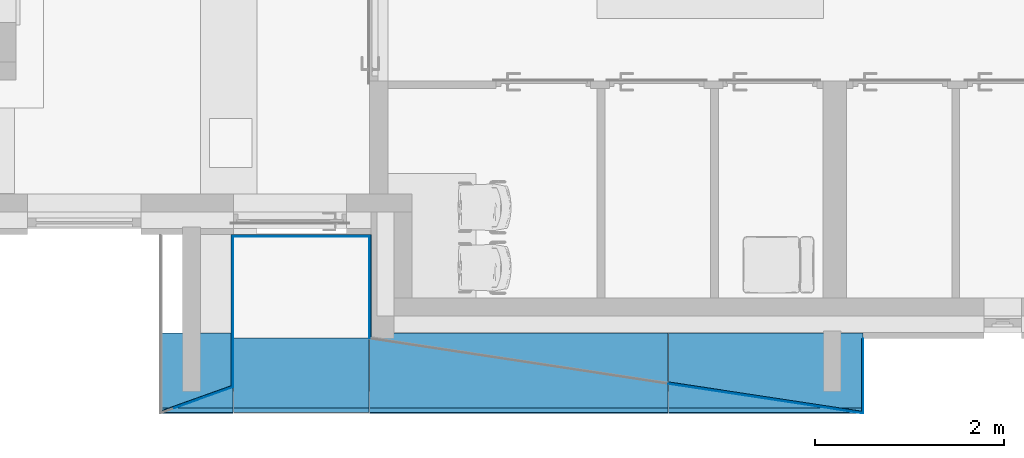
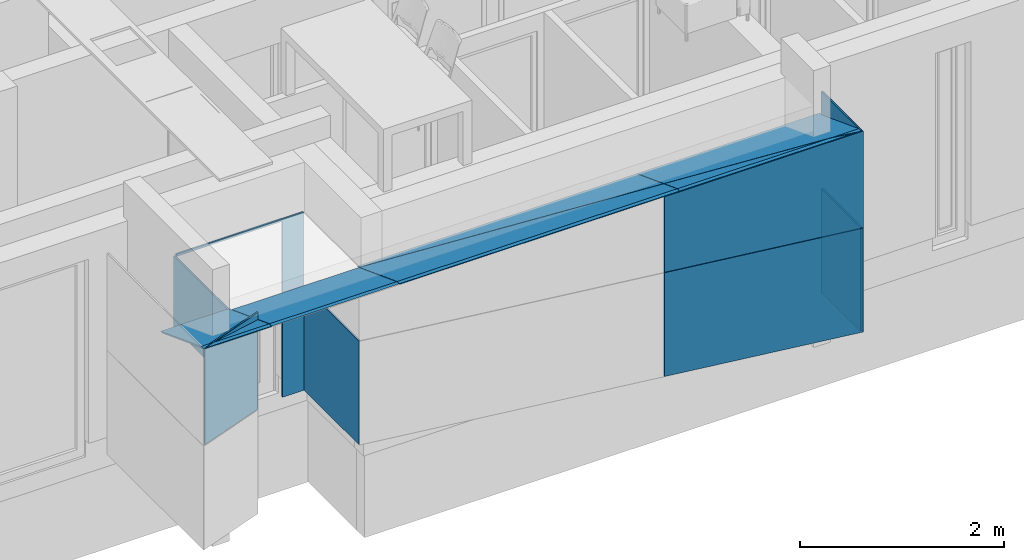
# One storey, part 5 of 55: 29 building element parts, 7 elements without a shape of their own.
"""IFC2X3 building model written with IfcOpenShell, lengths in millimetres."""

from ifc_helpers import new_model, entity, si_unit, converted_unit, direction, frame, frame_2d, origin, place, context, subcontext, project, spatial, polyline, rectangle, outline, extrude, clip, halfspace, faceted_brep, material, type_object, element, aggregate, save


model = new_model("IFC2X3")

# Units and contexts
model_context = context("Model", 3, precision=0.01, world=origin(), true_north=direction((6.123233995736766e-17, 1.0)))
plan_context = context("Plan", 3, precision=0.01, world=origin(), true_north=direction((6.123233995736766e-17, 1.0)))
body_context = subcontext(model_context, "Body", "Model", "MODEL_VIEW")
ifc_project = project(units=[si_unit("LENGTHUNIT", "METRE", prefix="MILLI"), converted_unit("PLANEANGLEUNIT", "DEGREE", entity("IfcPlaneAngleMeasure", 0.017453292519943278), si_unit("PLANEANGLEUNIT", "RADIAN"), dimensions=[0, 0, 0, 0, 0, 0, 0]), si_unit("AREAUNIT", "SQUARE_METRE")], contexts=[model_context, plan_context])

# Site, building, storey
site_placement = place(None, origin())
site = spatial("IfcSite", under=ifc_project, at=site_placement, Name="Default", CompositionType="ELEMENT")
building_placement = place(site_placement, origin())
building = spatial("IfcBuilding", under=site, at=building_placement, CompositionType="ELEMENT")
storey_placement = place(building_placement, origin())
storey = spatial("IfcBuildingStorey", under=building, at=storey_placement, Name="1K", CompositionType="ELEMENT", Elevation=0.0)

# Wall, building element parts
wall_type = type_object("IfcWallType", Name="Basic Wall:VS-komposiit", PredefinedType="STANDARD")
wall_1_placement = place(storey_placement, frame((4891.636636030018, -406.34469918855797, 0.0), z_axis=(0.0, 0.0, 1.0), x_axis=(0.9417419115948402, 0.33633639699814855, 0.0)))
wall_1 = element("IfcWall", 1, at=wall_1_placement, inside=storey, type_object=wall_type, Name="Basic Wall:VS-komposiit", ObjectType="Basic Wall:VS-komposiit")
ifc_material_1 = material(Name="_K. Välisviimistlus. Alumiinium-komposiitplaat")
building_element_part_1_placement = place(wall_1_placement, origin())
building_element_part_1 = element("IfcBuildingElementPart", 2, at=building_element_part_1_placement, material=ifc_material_1, Name="Part", context=body_context, shape_type="SweptSolid", body=[
    clip(extrude(outline(polyline([(-320.05077497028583, -112.18012409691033), (-308.1579199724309, -112.18012409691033), (314.10434747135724, 110.05639999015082), (314.10434747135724, 114.30384820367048), (-320.05077497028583, -112.18012409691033)])), frame((468.88464863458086, -8.0, 2314.4188384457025), z_axis=(0.0, 0.0, 1.0), x_axis=(0.9417419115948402, -0.33633639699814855, 0.0)), (0.0, 0.0, 1.0), 85.58116155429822), halfspace(frame((7276.346445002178, -1715.315257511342, 2100.0), z_axis=(-0.11888645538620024, -0.3328820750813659, -0.9354440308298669), x_axis=(-0.9417419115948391, 0.33633639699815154, 0.0)), False)),
])
ifc_material_2 = material(Name="_K. Õhk. Roov. Fassaadikatte alusroov. Horisontaalne. 25 mm")
building_element_part_2_placement = place(wall_1_placement, origin())
building_element_part_2 = element("IfcBuildingElementPart", 3, at=building_element_part_2_placement, material=ifc_material_2, Name="Part", context=body_context, shape_type="SweptSolid", body=[
    clip(extrude(outline(polyline([(-352.75612621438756, -117.48943436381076), (-305.18470622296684, -117.48943436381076), (328.97041621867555, 108.99453793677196), (328.97041621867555, 125.98433079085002), (-352.75612621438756, -117.48943436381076)])), frame((456.6703629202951, 2.0, 2307.9989307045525), z_axis=(0.0, 0.0, 1.0), x_axis=(0.9417419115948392, -0.3363363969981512, 0.0)), (0.0, 0.0, 1.0), 92.00106929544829), halfspace(frame((7276.346445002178, -1715.315257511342, 2100.0), z_axis=(-0.11888645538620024, -0.3328820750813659, -0.9354440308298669), x_axis=(-0.9417419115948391, 0.33633639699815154, 0.0)), False)),
])
building_element_part_3_placement = place(wall_1_placement, frame((1.428571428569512, -6.0, 1245.0)))
building_element_part_3 = element("IfcBuildingElementPart", 4, at=building_element_part_3_placement, material=ifc_material_2, Name="Part", context=body_context, shape_type="Brep", body=[
    faceted_brep([(797.4584020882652, 0.0, 0.0), (0.0, 0.0, 0.0), (5.7142857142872, 16.0, 0.0), (803.1726878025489, 16.0, 0.0), (797.4584020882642, 0.0, 1045.8344736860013), (801.7058503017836, 0.0, 1045.8344736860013), (801.7058503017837, 0.0, 1048.0386175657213), (0.0, 0.0, 1149.9281627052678), (0.0, 0.0, 1045.8344736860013), (5.7142857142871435, 16.0, 1045.8344736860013), (5.71428571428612, 16.0, 1143.508254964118), (774.24889605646, 16.0, 1045.8344736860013), (786.1828949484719, 16.0, 1044.3177706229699), (803.1726878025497, 16.0, 1042.1585219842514), (803.6677333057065, 5.493272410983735, 1045.8344736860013), (799.9007656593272, 6.8386179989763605, 1045.8344736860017)], [[[0, 1, 2, 3]], [[4, 5, 6, 7, 8, 1, 0]], [[9, 10, 11, 12, 13, 3, 2]], [[8, 7, 10, 9, 2, 1]], [[7, 6, 14, 15, 13, 12, 11, 10]], [[13, 15, 4, 0, 3]], [[5, 4, 15, 14]], [[6, 5, 14]]]),
])
aggregate(wall_1, [building_element_part_1, building_element_part_2, building_element_part_3])

wall_2_placement = place(storey_placement, frame((5640.0, -132.02487723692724, 0.0), z_axis=(0.0, 0.0, 1.0), x_axis=(0.0, 1.0, 0.0)))
wall_2 = element("IfcWall", 5, at=wall_2_placement, inside=storey, type_object=wall_type, Name="Basic Wall:VS-komposiit", ObjectType="Basic Wall:VS-komposiit")
building_element_part_4_placement = place(wall_2_placement, frame((-11.27550713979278, -6.0, 1245.0)))
building_element_part_4 = element("IfcBuildingElementPart", 6, at=building_element_part_4_placement, material=ifc_material_1, Name="Part", context=body_context, shape_type="Brep", body=[
    faceted_brep([(1597.3003843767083, -4.0, 0.0), (1.4285714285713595, -4.0, 0.0), (0.0, 0.0, 0.0), (1597.3003843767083, 0.0, 0.0), (558.2858693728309, 0.0, 859.0), (558.28586937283, -4.0, 859.0), (1597.3003843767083, -4.0, 859.0), (1597.3003843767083, 0.0, 859.0), (568.8715622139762, 0.0, 855.0), (568.8715622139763, -4.0, 855.0), (512.2904494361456, 0.0, 855.0), (512.2904494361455, -4.0, 855.0), (501.70475659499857, 0.0, 859.0), (0.0, 0.0, 1048.5784297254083), (1.4285714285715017, -4.0, 1048.0386175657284), (501.7047565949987, -4.0, 859.0), (1.4285714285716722, -4.0, 859.0), (0.0, 0.0, 859.0)], [[[0, 1, 2, 3]], [[4, 5, 6, 7]], [[5, 4, 8, 9]], [[9, 8, 10, 11]], [[11, 10, 12, 13, 14, 15]], [[6, 5, 9, 11, 15, 14, 16, 1, 0]], [[4, 7, 3, 2, 17, 13, 12, 10, 8]], [[14, 13, 17, 2, 1, 16]], [[7, 6, 0, 3]]]),
])
building_element_part_5_placement = place(wall_2_placement, frame((0.0, 10.0, 1245.0)))
building_element_part_5 = element("IfcBuildingElementPart", 7, at=building_element_part_5_placement, material=ifc_material_2, Name="Part", context=body_context, shape_type="Brep", body=[
    faceted_brep([(1602.0248772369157, -16.0, 0.0), (5.714285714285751, -16.0, 0.0), (0.0, 0.0, 0.0), (1602.0248772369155, 0.0, 0.0), (547.0103622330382, -16.0, 859.0), (1602.0248772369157, -16.0, 859.0), (1602.0248772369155, 0.0, 859.0), (547.0103622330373, 0.0, 859.0), (557.5960550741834, -16.0, 855.0), (501.01494229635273, -16.0, 855.0), (490.4292494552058, -16.0, 859.0), (5.714285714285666, -16.0, 1042.1585219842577), (5.714285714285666, -16.0, 859.0), (0.0, 0.0, 1044.3177706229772), (0.0, 0.0, 859.0), (557.5960550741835, 0.0, 855.0), (501.01494229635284, 0.0, 855.0), (490.42924945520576, 0.0, 859.0)], [[[0, 1, 2, 3]], [[4, 5, 6, 7]], [[5, 4, 8, 9, 10, 11, 12, 1, 0]], [[12, 11, 13, 14, 2, 1]], [[6, 5, 0, 3]], [[4, 7, 15, 8]], [[9, 8, 15, 16]], [[10, 9, 16, 17, 13, 11]], [[7, 6, 3, 2, 14, 13, 17, 16, 15]]]),
])
aggregate(wall_2, [building_element_part_4, building_element_part_5])

wall_3_placement = place(storey_placement, frame((12326.500751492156, -415.76625176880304, 0.0), z_axis=(0.0, 0.0, 1.0), x_axis=(-0.9886745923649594, 0.15007514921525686, 0.0)))
wall_3 = element("IfcWall", 8, at=wall_3_placement, inside=storey, type_object=wall_type, Name="Basic Wall:VS-komposiit", ObjectType="Basic Wall:VS-komposiit")
building_element_part_6_placement = place(wall_3_placement, origin())
building_element_part_6 = element("IfcBuildingElementPart", 9, at=building_element_part_6_placement, material=ifc_material_1, Name="Part", context=body_context, shape_type="SweptSolid", body=[
    clip(extrude(outline(polyline([(-158.8262344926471, -1032.998890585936), (-154.78041392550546, -1032.998890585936), (158.78067339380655, 1032.6987402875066), (154.82597502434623, 1033.2990408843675), (-158.8262344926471, -1032.998890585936)])), frame((1045.1356279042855, 8.0, 1245.0), z_axis=(0.0, 0.0, 1.0), x_axis=(0.15007514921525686, -0.9886745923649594, 0.0)), (0.0, 0.0, 1.0), 1154.71374045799), halfspace(frame((4886.396828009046, 2701.6089042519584, 2100.0), z_axis=(0.056510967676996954, 0.008578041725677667, 0.9983651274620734), x_axis=(0.9870582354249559, 0.14982979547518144, -0.05715830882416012)), False)),
])
building_element_part_7_placement = place(wall_3_placement, origin())
building_element_part_7 = element("IfcBuildingElementPart", 10, at=building_element_part_7_placement, material=ifc_material_2, Name="Part", context=body_context, shape_type="SweptSolid", body=[
    clip(extrude(outline(polyline([(-164.47747403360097, -1030.2485148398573), (-148.29419176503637, -1030.2485148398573), (164.29522963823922, 1029.0479136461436), (148.4764361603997, 1031.449116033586), (-164.47747403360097, -1030.2485148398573)])), frame((1047.9175095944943, -2.0, 1245.0), z_axis=(0.0, 0.0, 1.0), x_axis=(0.15007514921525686, -0.9886745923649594, 0.0)), (0.0, 0.0, 1.0), 1154.4847328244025), halfspace(frame((4886.396828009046, 2701.6089042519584, 2100.0), z_axis=(0.056510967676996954, 0.008578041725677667, 0.9983651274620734), x_axis=(0.9870582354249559, 0.14982979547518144, -0.05715830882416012)), False)),
])
building_element_part_8_placement = place(wall_3_placement, origin())
building_element_part_8 = element("IfcBuildingElementPart", 11, at=building_element_part_8_placement, material=ifc_material_2, Name="Part", context=body_context, shape_type="SweptSolid", body=[
    extrude(outline(polyline([(-164.47747403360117, -1030.2485148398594), (-148.2941917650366, -1030.2485148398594), (164.29522963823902, 1029.0479136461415), (148.47643616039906, 1031.4491160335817), (-164.47747403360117, -1030.2485148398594)])), frame((1047.9175095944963, -2.0, 0.0), z_axis=(0.0, 0.0, 1.0), x_axis=(0.15007514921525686, -0.9886745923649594, 0.0)), (0.0, 0.0, 1.0), 1240.0000000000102),
])
building_element_part_9_placement = place(wall_3_placement, origin())
building_element_part_9 = element("IfcBuildingElementPart", 12, at=building_element_part_9_placement, material=ifc_material_1, Name="Part", context=body_context, shape_type="SweptSolid", body=[
    extrude(outline(polyline([(-158.82623449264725, -1032.998890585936), (-154.78041392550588, -1032.998890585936), (158.7806733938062, 1032.6987402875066), (154.82597502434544, 1033.2990408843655), (-158.82623449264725, -1032.998890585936)])), frame((1045.1356279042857, 8.0, 0.0), z_axis=(0.0, 0.0, 1.0), x_axis=(0.15007514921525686, -0.9886745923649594, 0.0)), (0.0, 0.0, 1.0), 1240.0000000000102),
])
aggregate(wall_3, [building_element_part_6, building_element_part_7, building_element_part_8, building_element_part_9])

wall_4_placement = place(storey_placement, frame((12315.0, -405.42389485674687, 0.0), z_axis=(0.0, 0.0, 1.0), x_axis=(0.0, 1.0, 0.0)))
wall_4 = element("IfcWall", 13, at=wall_4_placement, inside=storey, type_object=wall_type, Name="Basic Wall:VS-komposiit", ObjectType="Basic Wall:VS-komposiit")
building_element_part_10_placement = place(wall_4_placement, origin())
building_element_part_10 = element("IfcBuildingElementPart", 14, at=building_element_part_10_placement, material=ifc_material_1, Name="Part", context=body_context, shape_type="SweptSolid", body=[
    extrude(outline(polyline([(-393.15179428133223, -2.0), (392.8482057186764, -2.0), (393.4553828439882, 2.0), (-393.15179428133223, 2.0), (-393.15179428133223, -2.0)])), frame((377.2721005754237, -8.0, 0.0), z_axis=(0.0, 0.0, 1.0), x_axis=(-1.0, 0.0, 0.0)), (0.0, 0.0, 1.0), 1240.000000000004),
])
building_element_part_11_placement = place(wall_4_placement, origin())
building_element_part_11 = element("IfcBuildingElementPart", 15, at=building_element_part_11_placement, material=ifc_material_2, Name="Part", context=body_context, shape_type="SweptSolid", body=[
    extrude(outline(polyline([(-384.30118174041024, -8.0), (383.08682748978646, -8.0), (385.5155359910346, 8.0), (-384.30118174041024, 8.0), (-384.30118174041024, -8.0)])), frame((386.12271311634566, 2.0, 0.0), z_axis=(0.0, 0.0, 1.0), x_axis=(-1.0, 0.0, 0.0)), (0.0, 0.0, 1.0), 1240.000000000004),
])
building_element_part_12_placement = place(wall_4_placement, origin())
building_element_part_12 = element("IfcBuildingElementPart", 16, at=building_element_part_12_placement, material=ifc_material_2, Name="Part", context=body_context, shape_type="SweptSolid", body=[
    extrude(outline(polyline([(-384.30118174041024, -8.0), (383.0868274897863, -8.0), (385.5155359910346, 8.0), (-384.30118174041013, 8.0), (-384.30118174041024, -8.0)])), frame((386.12271311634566, 2.0, 1245.0), z_axis=(0.0, 0.0, 1.0), x_axis=(-1.0, 0.0, 0.0)), (0.0, 0.0, 1.0), 1155.0000000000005),
])
building_element_part_13_placement = place(wall_4_placement, origin())
building_element_part_13 = element("IfcBuildingElementPart", 17, at=building_element_part_13_placement, material=ifc_material_1, Name="Part", context=body_context, shape_type="SweptSolid", body=[
    extrude(outline(polyline([(-393.15179428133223, -2.0), (392.8482057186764, -2.0), (393.4553828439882, 2.0), (-393.15179428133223, 2.0), (-393.15179428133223, -2.0)])), frame((377.2721005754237, -8.0, 1245.0), z_axis=(0.0, 0.0, 1.0), x_axis=(-1.0, 0.0, 0.0)), (0.0, 0.0, 1.0), 1155.0000000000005),
])
aggregate(wall_4, [building_element_part_10, building_element_part_11, building_element_part_12, building_element_part_13])

wall_5_placement = place(storey_placement, frame((7100.0, 386.1832822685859, 0.0), z_axis=(0.0, 0.0, 1.0), x_axis=(0.0, 1.0, 0.0)))
wall_5 = element("IfcWall", 18, at=wall_5_placement, inside=storey, type_object=wall_type, Name="Basic Wall:VS-komposiit", ObjectType="Basic Wall:VS-komposiit")
building_element_part_14_placement = place(wall_5_placement, origin())
building_element_part_14 = element("IfcBuildingElementPart", 19, at=building_element_part_14_placement, material=ifc_material_2, Name="Part", context=body_context, shape_type="SweptSolid", body=[
    extrude(outline(polyline([(-541.3011817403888, -8.0), (540.0868274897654, -8.0), (542.5155359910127, 8.0), (-541.3011817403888, 8.0), (-541.3011817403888, -8.0)])), frame((542.5155359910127, -2.0, 0.0), z_axis=(0.0, 0.0, 1.0), x_axis=(-1.0, 0.0, 0.0)), (0.0, 0.0, 1.0), 1240.0000000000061),
])
building_element_part_15_placement = place(wall_5_placement, origin())
building_element_part_15 = element("IfcBuildingElementPart", 20, at=building_element_part_15_placement, material=ifc_material_1, Name="Part", context=body_context, shape_type="SweptSolid", body=[
    extrude(outline(polyline([(-540.6338514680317, -2.0), (540.3302629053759, -2.0), (540.9374400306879, 2.0), (-540.6338514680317, 2.0), (-540.6338514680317, -2.0)])), frame((527.1828662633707, 8.0, 0.0), z_axis=(0.0, 0.0, 1.0), x_axis=(-1.0, 0.0, 0.0)), (0.0, 0.0, 1.0), 1240.0000000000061),
])
aggregate(wall_5, [building_element_part_14, building_element_part_15])

wall_6_placement = place(storey_placement, frame((5650.0, 1460.0, 0.0)))
wall_6 = element("IfcWall", 21, at=wall_6_placement, inside=storey, type_object=wall_type, Name="Basic Wall:VS-komposiit", ObjectType="Basic Wall:VS-komposiit")
building_element_part_16_placement = place(wall_6_placement, origin())
building_element_part_16 = element("IfcBuildingElementPart", 22, at=building_element_part_16_placement, material=ifc_material_1, Name="Part", context=body_context, shape_type="SweptSolid", body=[
    extrude(rectangle(XDim=4.000000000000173, YDim=240.0000000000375, at=frame_2d((0.0, -5.400124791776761e-13), x_axis=(1.0, 0.0))), frame((1320.0, -8.0, 0.0), z_axis=(0.0, 0.0, 1.0), x_axis=(0.0, -1.0, 0.0)), (0.0, 0.0, 1.0), 1240.0000000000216),
])
building_element_part_17_placement = place(wall_6_placement, origin())
building_element_part_17 = element("IfcBuildingElementPart", 23, at=building_element_part_17_placement, material=ifc_material_2, Name="Part", context=body_context, shape_type="SweptSolid", body=[
    extrude(rectangle(XDim=15.999999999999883, YDim=244.00000000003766, at=frame_2d((1.354472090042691e-13, 0.0), x_axis=(1.0, 0.0))), frame((1322.0, 2.0, 0.0), z_axis=(0.0, 0.0, 1.0), x_axis=(0.0, -1.0, 0.0)), (0.0, 0.0, 1.0), 1240.0000000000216),
])
building_element_part_18_placement = place(wall_6_placement, frame((-4.0, -6.0, 1245.0)))
building_element_part_18 = element("IfcBuildingElementPart", 24, at=building_element_part_18_placement, material=ifc_material_2, Name="Part", context=body_context, shape_type="Brep", body=[
    faceted_brep([(1448.0, 0.0, 0.0), (1204.0, 0.0, 0.0), (1204.0, 16.0, 0.0), (1448.0, 16.0, 0.0), (1448.0, 0.0, 859.0), (1448.0, 16.0, 859.0), (1444.0, 16.0, 859.0), (1444.0, 0.0, 859.0), (1444.0, 0.0, 882.1664175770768), (4.0, 0.0, 882.1664175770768), (4.0, 0.0, 859.0), (0.0, 0.0, 859.0), (0.0, 0.0, 855.0), (1204.0, 0.0, 855.0), (0.0, 16.0, 855.0), (1204.0, 16.0, 855.0), (0.0, 16.0, 859.0), (4.0, 16.0, 859.0), (4.0, 16.0, 882.1664175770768), (1444.0, 16.0, 882.1664175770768)], [[[0, 1, 2, 3]], [[4, 5, 6, 7]], [[4, 7, 8, 9, 10, 11, 12, 13, 1, 0]], [[13, 12, 14, 15]], [[13, 15, 2, 1]], [[6, 5, 3, 2, 15, 14, 16, 17, 18, 19]], [[12, 11, 16, 14]], [[5, 4, 0, 3]], [[7, 6, 19, 8]], [[9, 8, 19, 18]], [[10, 9, 18, 17]], [[11, 10, 17, 16]]]),
])
building_element_part_19_placement = place(wall_6_placement, frame((0.0, -10.0, 1245.0)))
building_element_part_19 = element("IfcBuildingElementPart", 25, at=building_element_part_19_placement, material=ifc_material_1, Name="Part", context=body_context, shape_type="Brep", body=[
    faceted_brep([(1440.0, 4.0, 0.0), (1440.0, 0.0, 0.0), (1200.0, 0.0, 0.0), (1200.0, 4.0, 0.0), (1440.0, 4.0, 859.0), (1440.0, 4.0, 882.1664175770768), (1440.0, 0.0, 882.1664175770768), (1440.0, 0.0, 859.0), (0.0, 0.0, 855.0), (0.0, 0.0, 859.0), (0.0, 0.0, 882.1664175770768), (0.0, 4.0, 882.1664175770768), (0.0, 4.0, 859.0), (0.0, 4.0, 855.0), (1200.0, 4.0, 855.0), (1200.0, 0.0, 855.0)], [[[0, 1, 2, 3]], [[4, 5, 6, 7, 1, 0]], [[8, 9, 10, 11, 12, 13]], [[8, 13, 14, 15]], [[15, 14, 3, 2]], [[7, 6, 10, 9, 8, 15, 2, 1]], [[5, 4, 0, 3, 14, 13, 12, 11]], [[6, 5, 11, 10]]]),
])
aggregate(wall_6, [building_element_part_16, building_element_part_17, building_element_part_18, building_element_part_19])

wall_7_placement = place(storey_placement, frame((12321.0, 397.28062144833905, 2100.0), z_axis=(0.0, 0.0, 1.0), x_axis=(-1.0, 0.0, 0.0)))
wall_7 = element("IfcWall", 26, at=wall_7_placement, inside=storey, type_object=wall_type, Name="Basic Wall:VS-komposiit", ObjectType="Basic Wall:VS-komposiit")
building_element_part_20_placement = place(wall_7_placement, frame((2062.2413044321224, 822.2175194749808, 182.6076723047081)))
building_element_part_20 = element("IfcBuildingElementPart", 27, at=building_element_part_20_placement, material=ifc_material_1, Name="Part", context=body_context, shape_type="Brep", body=[
    faceted_brep([(0.0, -312.0836800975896, 3.741776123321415), (0.0, -310.66978072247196, 0.0), (0.0, 0.0, 117.39232769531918), (0.0, -11.316222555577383, 117.39232769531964), (-1981.8741631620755, -11.316222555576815, 117.39232769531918), (-2047.1244353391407, 0.0, 117.39232769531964)], [[[0, 1, 2, 3]], [[1, 0, 4, 5]], [[4, 3, 2, 5]], [[3, 4, 0]], [[5, 2, 1]]]),
])
building_element_part_21_placement = place(wall_7_placement, frame((2062.2413044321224, 810.9012969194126, 186.34944842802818)))
building_element_part_21 = element("IfcBuildingElementPart", 28, at=building_element_part_21_placement, material=ifc_material_2, Name="Part", context=body_context, shape_type="Brep", body=[
    faceted_brep([(0.0, -306.42305504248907, 14.96710449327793), (0.0, -300.76745754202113, 0.0), (0.0, 0.0, 113.65055157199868), (0.0, -45.26489022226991, 113.65055157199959), (-1720.8730744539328, -45.2648902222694, 113.65055157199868), (-1981.8741631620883, 0.0, 113.65055157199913)], [[[0, 1, 2, 3]], [[1, 0, 4, 5]], [[5, 2, 1]], [[3, 4, 0]], [[2, 5, 4, 3]]]),
])
building_element_part_22_placement = place(wall_7_placement, frame((7442.0, 810.9012969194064, 0.0)))
building_element_part_22 = element("IfcBuildingElementPart", 29, at=building_element_part_22_placement, material=ifc_material_2, Name="Part", context=body_context, shape_type="Brep", body=[
    faceted_brep([(-768.4999999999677, -270.52571261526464, 197.77685157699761), (-768.4999999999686, -276.1813101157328, 212.7439560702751), (-121.93402429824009, -45.264890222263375, 300.0), (-11.02800467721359, 0.0, 300.0), (-768.4999999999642, -793.926963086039, 0.0), (-768.4999999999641, -839.1918533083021, 0.0), (0.0, 0.0, 300.0), (0.0, -793.926963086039, 0.0), (0.0, -839.1918533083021, 0.0), (0.0, -45.264890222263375, 300.0), (-89.27345756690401, -45.264890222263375, 300.0), (-751.0, -839.191853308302, 0.0)], [[[0, 1, 2, 3]], [[1, 0, 4, 5]], [[6, 7, 4, 0, 3]], [[8, 9, 10, 2, 1, 5, 11]], [[7, 6, 9, 8]], [[10, 9, 6, 3, 2]], [[8, 11, 5, 4, 7]]]),
])
building_element_part_23_placement = place(wall_7_placement, frame((7416.953761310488, 810.901296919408, 199.6686548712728)))
building_element_part_23 = element("IfcBuildingElementPart", 30, at=building_element_part_23_placement, material=ifc_material_2, Name="Part", context=body_context, shape_type="Brep", body=[
    faceted_brep([(-743.4537613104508, -265.51920046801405, 0.0), (-743.4537613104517, -271.1747979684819, 14.967104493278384), (-743.4537613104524, -45.26489022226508, 100.33134512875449), (-743.4537613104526, 0.0, 100.33134512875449), (0.0, 0.0, 100.33134512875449), (-110.90601962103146, -45.26489022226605, 100.33134512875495), (-123.69149386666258, -45.264890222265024, 100.33134512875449)], [[[0, 1, 2, 3]], [[1, 0, 4, 5]], [[3, 4, 0]], [[6, 2, 1, 5]], [[4, 3, 2, 6, 5]]]),
])
building_element_part_24_placement = place(wall_7_placement, frame((6668.500000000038, 810.9012969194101, 4.276044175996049)))
building_element_part_24 = element("IfcBuildingElementPart", 31, at=building_element_part_24_placement, material=ifc_material_2, Name="Part", context=body_context, shape_type="Brep", body=[
    faceted_brep([(0.0, -782.6107405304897, 0.0), (0.0, -268.9153136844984, 194.10932644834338), (0.0, 0.0, 295.7239558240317), (0.0, -45.264890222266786, 295.7239558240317), (0.0, -274.57091118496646, 209.07643094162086), (0.0, -786.2633891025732, 15.723955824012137), (0.0, -782.6107405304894, 15.723955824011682), (-1435.0, 0.0, 295.72395582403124), (-1435.0, -782.610740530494, 0.0), (-1435.0, -782.610740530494, 15.723955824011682), (-1435.0, -786.2633891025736, 15.723955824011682), (-1435.0, -45.26489022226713, 295.72395582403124)], [[[0, 1, 2, 3, 4, 5, 6]], [[7, 8, 9, 10, 11]], [[0, 8, 7, 2, 1]], [[10, 5, 4, 3, 11]], [[2, 7, 11, 3]], [[5, 10, 9, 6]], [[8, 0, 6, 9]]]),
])
building_element_part_25_placement = place(wall_7_placement, frame((2062.241304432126, 810.9012969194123, 0.0)))
building_element_part_25 = element("IfcBuildingElementPart", 32, at=building_element_part_25_placement, material=ifc_material_2, Name="Part", context=body_context, shape_type="Brep", body=[
    faceted_brep([(0.0, -305.50582846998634, 184.55896725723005), (0.0, -311.16142597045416, 199.52607175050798), (0.0, -839.191853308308, 0.0), (0.0, -793.9269630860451, 0.0), (-2013.0971385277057, 0.0, 300.0), (-1752.0960498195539, -45.26489022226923, 300.0), (-2062.241304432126, -793.9269630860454, 0.0), (-2062.241304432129, 0.0, 300.0), (-2062.241304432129, -45.264890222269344, 300.0), (-2062.241304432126, -839.191853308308, 0.0)], [[[0, 1, 2, 3]], [[1, 0, 4, 5]], [[6, 7, 4, 0, 3]], [[8, 9, 2, 1, 5]], [[9, 6, 3, 2]], [[7, 8, 5, 4]], [[7, 6, 9, 8]]]),
])
building_element_part_26_placement = place(wall_7_placement, frame((5228.500000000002, 504.6366729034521, 0.0)))
building_element_part_26 = element("IfcBuildingElementPart", 33, at=building_element_part_26_placement, material=ifc_material_2, Name="Part", context=body_context, shape_type="Brep", body=[
    faceted_brep([(0.0, -479.7498035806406, 2.9898980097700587), (0.0, -485.4054010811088, 17.95700250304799), (0.0, -532.9272292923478, 0.0), (0.0, -487.6623390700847, 0.0), (-3161.258695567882, 0.0, 184.27224231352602), (-3161.2586955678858, -5.655597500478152, 199.23934680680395), (-3161.2586955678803, -487.66233907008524, 0.0), (-3161.258695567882, -532.9272292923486, 0.0)], [[[0, 1, 2, 3]], [[1, 0, 4, 5]], [[5, 4, 6, 7]], [[3, 6, 4, 0]], [[7, 2, 1, 5]], [[6, 3, 2, 7]]]),
])
building_element_part_27_placement = place(wall_7_placement, frame((5228.499999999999, 810.9012969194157, 4.780379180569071)))
building_element_part_27 = element("IfcBuildingElementPart", 34, at=building_element_part_27_placement, material=ifc_material_2, Name="Part", context=body_context, shape_type="Brep", body=[
    faceted_brep([(0.0, -786.9316541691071, 14.96710449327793), (0.0, -781.2760566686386, 0.0), (0.0, 0.0, 295.2196208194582), (0.0, -45.26489022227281, 295.21962081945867), (-3161.2586955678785, -301.52625308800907, 181.28234430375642), (-3161.2586955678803, -307.18185058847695, 196.24944879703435), (-3161.258695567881, -45.26489022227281, 295.2196208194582), (-3161.258695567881, 0.0, 295.2196208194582)], [[[0, 1, 2, 3]], [[4, 5, 6, 7]], [[5, 4, 1, 0]], [[7, 2, 1, 4]], [[3, 6, 5, 0]], [[2, 7, 6, 3]]]),
])
building_element_part_28_placement = place(wall_7_placement, frame((7442.0, 822.2175194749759, 195.92687874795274)))
building_element_part_28 = element("IfcBuildingElementPart", 35, at=building_element_part_28_placement, material=ifc_material_1, Name="Part", context=body_context, shape_type="Brep", body=[
    faceted_brep([(-768.4999999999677, -275.4215236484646, 0.0), (-768.4999999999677, -276.8354230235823, 3.741776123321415), (-768.4999999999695, -11.316222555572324, 104.07312125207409), (-768.4999999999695, 0.0, 104.07312125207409), (0.0, -0.9572379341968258, 103.71141117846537), (0.0, -1.09391678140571, 104.07312125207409), (-25.046238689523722, -11.316222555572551, 104.07312125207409), (0.0, 0.0, 104.07312125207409)], [[[0, 1, 2, 3]], [[1, 0, 4, 5, 6]], [[4, 7, 5]], [[5, 7, 3, 2, 6]], [[6, 2, 1]], [[7, 4, 0, 3]]]),
])
building_element_part_29_placement = place(wall_7_placement, frame((5228.499999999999, 822.2175194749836, 1.0386030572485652)))
building_element_part_29 = element("IfcBuildingElementPart", 36, at=building_element_part_29_placement, material=ifc_material_1, Name="Part", context=body_context, shape_type="Brep", body=[
    faceted_brep([(0.0, -792.5922792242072, 3.7417761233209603), (0.0, -791.1783798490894, 0.0), (0.0, 0.0, 298.96139694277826), (0.0, -11.316222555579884, 298.9613969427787), (-3161.2586955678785, -311.42857626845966, 181.28234430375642), (-3161.2586955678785, -312.8424756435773, 185.02412042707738), (-3161.258695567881, -11.316222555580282, 298.96139694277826), (-3161.258695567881, 0.0, 298.96139694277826)], [[[0, 1, 2, 3]], [[4, 5, 6, 7]], [[5, 4, 1, 0]], [[6, 3, 2, 7]], [[3, 6, 5, 0]], [[7, 2, 1, 4]]]),
])
aggregate(wall_7, [building_element_part_20, building_element_part_21, building_element_part_22, building_element_part_23, building_element_part_24, building_element_part_25, building_element_part_26, building_element_part_27, building_element_part_28, building_element_part_29])

save(model, "model.ifc")
